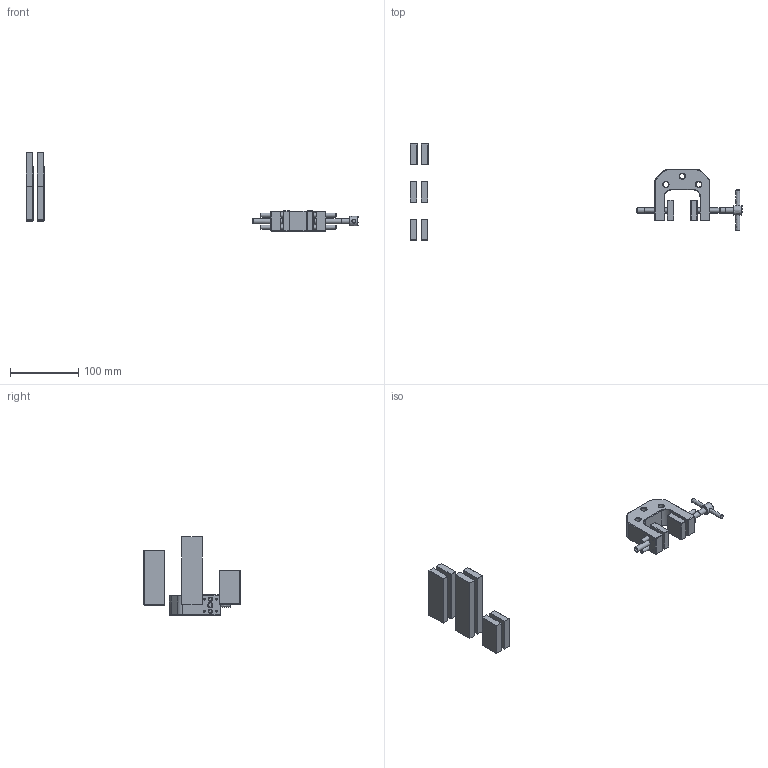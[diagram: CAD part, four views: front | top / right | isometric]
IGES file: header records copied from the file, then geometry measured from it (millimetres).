
Global section: file name: G1101 MODEL; native system: AutoCAD 2017 - English; preprocessor: Autodesk Translation Framework DWG producer (atf_dwg_producer); organization: unknown; date: 20171128.172044; units: inch
Bounding box: 487.4 x 141.33 x 115.69 mm (x, y, z)
Volume: 254071 mm3; surface area: 78086.7 mm2
Topology: 15 solids, 15 shells, 341 faces, 854 edges, 583 vertices
Faces by surface type: bspline 341
